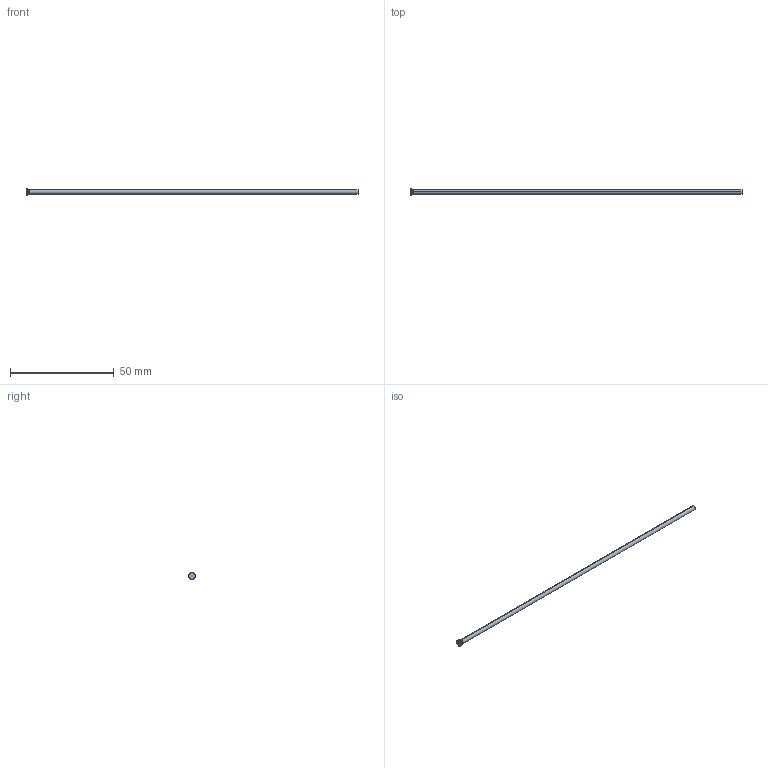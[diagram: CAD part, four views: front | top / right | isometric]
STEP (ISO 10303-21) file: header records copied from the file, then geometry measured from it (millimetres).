
FILE_DESCRIPTION (( 'STEP AP214' ), '1' );
FILE_NAME ('D-2,2x160.STEP', '2020-06-08T09:52:31', ( 'August' ), ( '' ), 'SwSTEP 2.0', 'SolidWorks 2018', '' );
FILE_SCHEMA (( 'AUTOMOTIVE_DESIGN' ));
Length unit declared in the file: millimetre
Products named in the file (1): D-2,2x160
Bounding box: 160 x 3.2 x 3.2 mm (x, y, z)
Volume: 612.1 mm3; surface area: 1121.7 mm2
Topology: 1 solids, 1 shells, 10 faces, 18 edges, 10 vertices
Faces by surface type: cylinder 4, torus 2, cone 2, plane 2
Entity records: 280 total; most frequent: DIRECTION 52, CARTESIAN_POINT 39, ORIENTED_EDGE 36, AXIS2_PLACEMENT_3D 23, EDGE_CURVE 18, CIRCLE 12, ADVANCED_FACE 10, FACE_OUTER_BOUND 10
